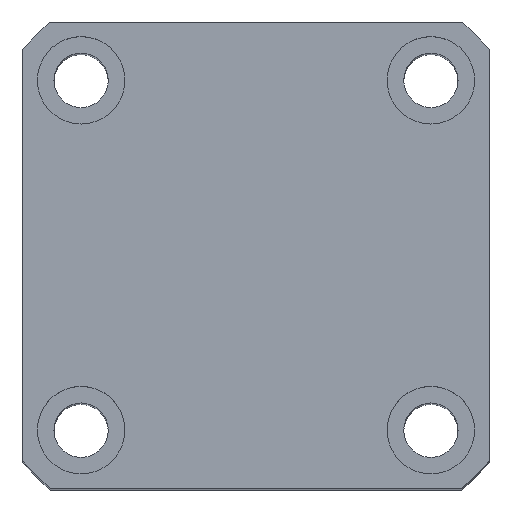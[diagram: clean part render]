
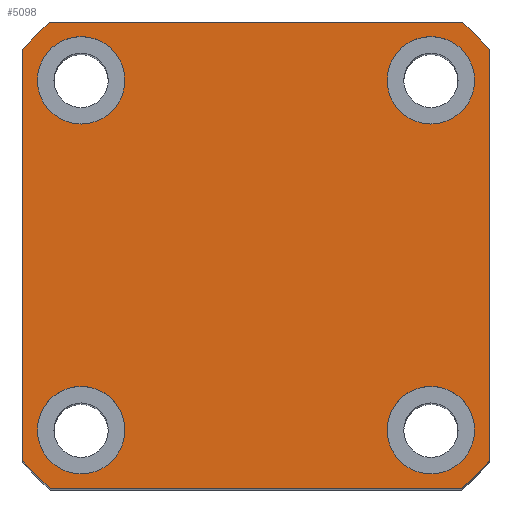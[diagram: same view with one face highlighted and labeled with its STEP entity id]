
A CAD part, top view. The second image highlights one B-rep face of the part: STEP entity #5098.
In plain terms, the highlighted planar face has unit normal (0, 0, 1).
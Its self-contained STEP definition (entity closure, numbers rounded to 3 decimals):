
#2482=LINE('',#14399,#3228);
#2486=LINE('',#14627,#3232);
#2490=LINE('',#14636,#3236);
#2494=LINE('',#14645,#3240);
#3228=VECTOR('',#10615,1.);
#3232=VECTOR('',#10737,1.);
#3236=VECTOR('',#10743,1.);
#3240=VECTOR('',#10749,1.);
#4080=PLANE('',#10236);
#5098=ADVANCED_FACE('',(#5548,#5549,#5550,#5551,#5552),#4080,.T.);
#5548=FACE_BOUND('',#5731,.T.);
#5549=FACE_BOUND('',#5732,.T.);
#5550=FACE_BOUND('',#5733,.T.);
#5551=FACE_BOUND('',#5734,.T.);
#5552=FACE_BOUND('',#5735,.T.);
#5731=EDGE_LOOP('',(#6308));
#5732=EDGE_LOOP('',(#6309));
#5733=EDGE_LOOP('',(#6310));
#5734=EDGE_LOOP('',(#6311));
#5735=EDGE_LOOP('',(#6312,#6313,#6314,#6315,#6316,#6317,#6318,#6319));
#6308=ORIENTED_EDGE('',*,*,#9066,.F.);
#6309=ORIENTED_EDGE('',*,*,#9068,.F.);
#6310=ORIENTED_EDGE('',*,*,#9070,.F.);
#6311=ORIENTED_EDGE('',*,*,#9072,.F.);
#6312=ORIENTED_EDGE('',*,*,#9087,.T.);
#6313=ORIENTED_EDGE('',*,*,#9098,.T.);
#6314=ORIENTED_EDGE('',*,*,#9043,.T.);
#6315=ORIENTED_EDGE('',*,*,#9099,.T.);
#6316=ORIENTED_EDGE('',*,*,#9091,.T.);
#6317=ORIENTED_EDGE('',*,*,#9100,.T.);
#6318=ORIENTED_EDGE('',*,*,#9095,.T.);
#6319=ORIENTED_EDGE('',*,*,#9101,.T.);
#8309=VERTEX_POINT('',#14397);
#8311=VERTEX_POINT('',#14400);
#8333=VERTEX_POINT('',#14576);
#8335=VERTEX_POINT('',#14581);
#8337=VERTEX_POINT('',#14586);
#8339=VERTEX_POINT('',#14591);
#8352=VERTEX_POINT('',#14625);
#8354=VERTEX_POINT('',#14628);
#8356=VERTEX_POINT('',#14634);
#8358=VERTEX_POINT('',#14637);
#8360=VERTEX_POINT('',#14643);
#8362=VERTEX_POINT('',#14646);
#9043=EDGE_CURVE('',#8311,#8309,#2482,.T.);
#9066=EDGE_CURVE('',#8333,#8333,#10086,.T.);
#9068=EDGE_CURVE('',#8335,#8335,#10088,.T.);
#9070=EDGE_CURVE('',#8337,#8337,#10090,.T.);
#9072=EDGE_CURVE('',#8339,#8339,#10092,.T.);
#9087=EDGE_CURVE('',#8354,#8352,#2486,.T.);
#9091=EDGE_CURVE('',#8358,#8356,#2490,.T.);
#9095=EDGE_CURVE('',#8362,#8360,#2494,.T.);
#9098=EDGE_CURVE('',#8352,#8311,#10106,.T.);
#9099=EDGE_CURVE('',#8309,#8358,#10107,.T.);
#9100=EDGE_CURVE('',#8356,#8362,#10108,.T.);
#9101=EDGE_CURVE('',#8360,#8354,#10109,.T.);
#10086=CIRCLE('',#10199,4.5);
#10088=CIRCLE('',#10202,4.5);
#10090=CIRCLE('',#10205,4.5);
#10092=CIRCLE('',#10208,4.5);
#10106=CIRCLE('',#10232,32.);
#10107=CIRCLE('',#10233,32.);
#10108=CIRCLE('',#10234,32.);
#10109=CIRCLE('',#10235,32.);
#10199=AXIS2_PLACEMENT_3D('',#14575,#10676,#10677);
#10202=AXIS2_PLACEMENT_3D('',#14580,#10682,#10683);
#10205=AXIS2_PLACEMENT_3D('',#14585,#10688,#10689);
#10208=AXIS2_PLACEMENT_3D('',#14590,#10694,#10695);
#10232=AXIS2_PLACEMENT_3D('',#14651,#10754,#10755);
#10233=AXIS2_PLACEMENT_3D('',#14652,#10756,#10757);
#10234=AXIS2_PLACEMENT_3D('',#14653,#10758,#10759);
#10235=AXIS2_PLACEMENT_3D('',#14654,#10760,#10761);
#10236=AXIS2_PLACEMENT_3D('',#14655,#10762,#10763);
#10615=DIRECTION('',(-1.,0.,0.));
#10676=DIRECTION('',(0.,0.,1.));
#10677=DIRECTION('',(1.,0.,0.));
#10682=DIRECTION('',(0.,0.,1.));
#10683=DIRECTION('',(1.,0.,0.));
#10688=DIRECTION('',(0.,0.,1.));
#10689=DIRECTION('',(1.,0.,0.));
#10694=DIRECTION('',(0.,0.,1.));
#10695=DIRECTION('',(1.,0.,0.));
#10737=DIRECTION('',(0.,1.,0.));
#10743=DIRECTION('',(0.,-1.,0.));
#10749=DIRECTION('',(1.,0.,0.));
#10754=DIRECTION('',(0.,0.,1.));
#10755=DIRECTION('',(1.,0.,0.));
#10756=DIRECTION('',(0.,0.,1.));
#10757=DIRECTION('',(1.,0.,0.));
#10758=DIRECTION('',(0.,0.,1.));
#10759=DIRECTION('',(1.,0.,0.));
#10760=DIRECTION('',(0.,0.,1.));
#10761=DIRECTION('',(1.,0.,0.));
#10762=DIRECTION('',(0.,0.,1.));
#10763=DIRECTION('',(-1.,0.,0.));
#14397=CARTESIAN_POINT('',(-104.566,66.686,99.916));
#14399=CARTESIAN_POINT('',(-107.4,66.686,99.916));
#14400=CARTESIAN_POINT('',(-62.234,66.686,99.916));
#14575=CARTESIAN_POINT('',(-65.4,24.686,99.916));
#14576=CARTESIAN_POINT('',(-60.9,24.686,99.916));
#14580=CARTESIAN_POINT('',(-101.4,24.686,99.916));
#14581=CARTESIAN_POINT('',(-96.9,24.686,99.916));
#14585=CARTESIAN_POINT('',(-65.4,60.686,99.916));
#14586=CARTESIAN_POINT('',(-60.9,60.686,99.916));
#14590=CARTESIAN_POINT('',(-101.4,60.686,99.916));
#14591=CARTESIAN_POINT('',(-96.9,60.686,99.916));
#14625=CARTESIAN_POINT('',(-59.4,63.853,99.916));
#14627=CARTESIAN_POINT('',(-59.4,66.686,99.916));
#14628=CARTESIAN_POINT('',(-59.4,21.52,99.916));
#14634=CARTESIAN_POINT('',(-107.4,21.52,99.916));
#14636=CARTESIAN_POINT('',(-107.4,66.686,99.916));
#14637=CARTESIAN_POINT('',(-107.4,63.853,99.916));
#14643=CARTESIAN_POINT('',(-62.234,18.686,99.916));
#14645=CARTESIAN_POINT('',(-107.4,18.686,99.916));
#14646=CARTESIAN_POINT('',(-104.566,18.686,99.916));
#14651=CARTESIAN_POINT('',(-83.4,42.686,99.916));
#14652=CARTESIAN_POINT('',(-83.4,42.686,99.916));
#14653=CARTESIAN_POINT('',(-83.4,42.686,99.916));
#14654=CARTESIAN_POINT('',(-83.4,42.686,99.916));
#14655=CARTESIAN_POINT('',(-83.4,42.686,99.916));
